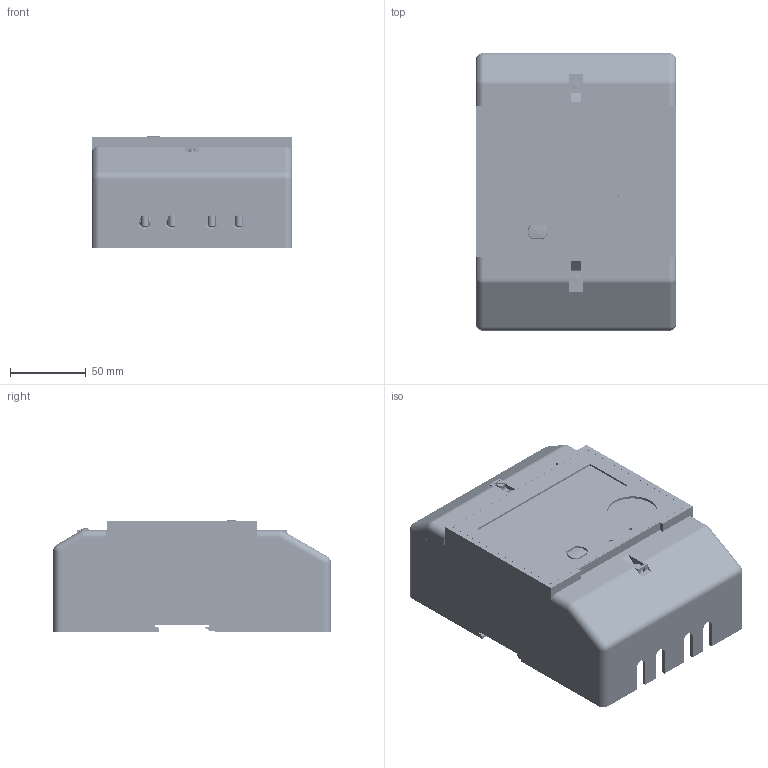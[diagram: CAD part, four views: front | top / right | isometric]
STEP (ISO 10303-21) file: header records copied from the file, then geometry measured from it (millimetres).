
FILE_DESCRIPTION(('STEP AP203'), '1');
FILE_NAME('ﾑ韭 鮏濵鈿隆 ﾊ籵炅 ﾑﾒ1.03-D', '', ('UNSPECIFIED'), ('UNSPECIFIED'), 'ASCON STEP Converter 1.6', 'ASCON Math Kernel', '');
FILE_SCHEMA(('CONFIG_CONTROL_DESIGN'));
Length unit declared in the file: millimetre
Bounding box: 132 x 182.9 x 73.34 mm (x, y, z)
Volume: 559421.3 mm3; surface area: 448181.9 mm2
Topology: 211 solids, 214 shells, 24907 faces, 66121 edges, 41556 vertices
Faces by surface type: plane 16382, cylinder 6185, sphere 860, bspline 810, torus 394, cone 248, revolution 16, extrusion 12
Full cylindrical faces by diameter (mm): 0.1 x8, 0.193 x1, 0.2 x1, 0.226 x6, 0.243 x2, 0.244 x1, 0.249 x1, 0.25 x1, 0.3 x1, 0.307 x1, 0.332 x1, 0.369 x1, 0.407 x2, 0.427 x2, 0.432 x1, 0.6 x7, 0.617 x1, 0.7 x8, 0.75 x7, 0.751 x60, 0.762 x5, 0.8 x65, 0.9 x91, 0.991 x2, 1 x76, 1.1 x3, 1.168 x2, 1.2 x8, 1.219 x4, 1.3 x2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
Entity records: 1060272 total; most frequent: CARTESIAN_POINT 249168, ORIENTED_EDGE 128702, DIRECTION 121615, EDGE_CURVE 64351, VECTOR 47310, LINE 47298, VERTEX_POINT 41544, AXIS2_PLACEMENT_3D 37145
